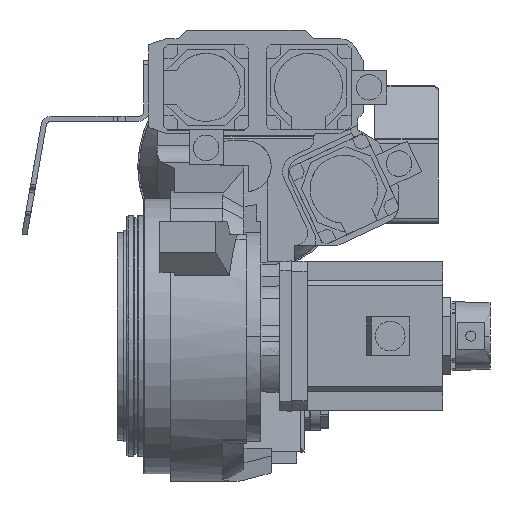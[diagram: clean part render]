
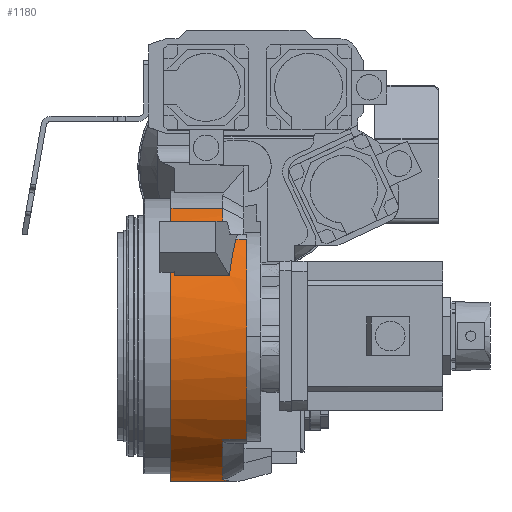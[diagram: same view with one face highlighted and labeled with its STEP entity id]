
A CAD part, front view. The second image highlights one B-rep face of the part: STEP entity #1180.
In plain terms, the highlighted cylindrical face has radius 171.5 mm (diameter 343 mm), a partial arc.
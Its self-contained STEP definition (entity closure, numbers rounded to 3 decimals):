
#975=CARTESIAN_POINT('Control Point',(-88.,222.779,1980.505)) ;
#976=CARTESIAN_POINT('Control Point',(-88.,209.047,1973.004)) ;
#977=CARTESIAN_POINT('Control Point',(-88.,195.993,1963.839)) ;
#978=CARTESIAN_POINT('Control Point',(-88.,183.915,1953.068)) ;
#979=CARTESIAN_POINT('Control Point',(-88.,162.674,1929.02)) ;
#980=CARTESIAN_POINT('Control Point',(-88.,147.318,1900.248)) ;
#981=CARTESIAN_POINT('Control Point',(-88.,141.412,1885.173)) ;
#982=CARTESIAN_POINT('Control Point',(-88.,133.449,1854.621)) ;
#983=CARTESIAN_POINT('Control Point',(-88.,132.611,1822.802)) ;
#984=CARTESIAN_POINT('Control Point',(-88.,133.949,1807.323)) ;
#985=CARTESIAN_POINT('Control Point',(-88.,140.094,1776.933)) ;
#986=CARTESIAN_POINT('Control Point',(-88.,152.864,1748.598)) ;
#987=CARTESIAN_POINT('Control Point',(-88.,160.807,1735.238)) ;
#988=CARTESIAN_POINT('Control Point',(-88.,179.608,1710.473)) ;
#989=CARTESIAN_POINT('Control Point',(-88.,203.358,1690.567)) ;
#990=CARTESIAN_POINT('Control Point',(-88.,216.317,1681.997)) ;
#991=CARTESIAN_POINT('Control Point',(-88.,244.685,1667.525)) ;
#992=CARTESIAN_POINT('Control Point',(-88.,275.314,1659.929)) ;
#993=CARTESIAN_POINT('Control Point',(-88.,291.378,1657.918)) ;
#994=CARTESIAN_POINT('Control Point',(-88.,321.38,1657.683)) ;
#995=CARTESIAN_POINT('Control Point',(-88.,350.216,1663.723)) ;
#996=CARTESIAN_POINT('Control Point',(-88.,363.208,1667.836)) ;
#997=CARTESIAN_POINT('Control Point',(-88.,375.586,1673.138)) ;
#998=CARTESIAN_POINT('Control Point',(-88.,387.221,1679.495)) ;
#999=CARTESIAN_POINT('Vertex',(-88.,387.221,1679.495)) ;
#1001=CARTESIAN_POINT('Vertex',(-88.,222.779,1980.505)) ;
#1039=CARTESIAN_POINT('Axis2P3D Location',(-43.5,305.,1830.)) ;
#1044=CARTESIAN_POINT('Line Origine',(-43.5,387.221,1679.495)) ;
#1048=CARTESIAN_POINT('Vertex',(-47.741,387.221,1679.495)) ;
#1052=CARTESIAN_POINT('Control Point',(-47.741,387.221,1679.495)) ;
#1053=CARTESIAN_POINT('Control Point',(-48.582,377.611,1674.244)) ;
#1054=CARTESIAN_POINT('Control Point',(-49.466,367.5,1669.919)) ;
#1055=CARTESIAN_POINT('Control Point',(-50.379,357.071,1666.596)) ;
#1056=CARTESIAN_POINT('Vertex',(-50.379,357.071,1666.596)) ;
#1060=CARTESIAN_POINT('Control Point',(-50.126,325.901,1659.778)) ;
#1061=CARTESIAN_POINT('Control Point',(-50.418,332.242,1660.557)) ;
#1062=CARTESIAN_POINT('Control Point',(-50.721,338.552,1661.632)) ;
#1063=CARTESIAN_POINT('Control Point',(-50.887,344.793,1662.995)) ;
#1064=CARTESIAN_POINT('Control Point',(-50.907,350.998,1664.661)) ;
#1065=CARTESIAN_POINT('Control Point',(-50.379,357.071,1666.596)) ;
#1066=CARTESIAN_POINT('Vertex',(-50.126,325.901,1659.778)) ;
#1069=CARTESIAN_POINT('Line Origine',(-43.5,325.901,1659.778)) ;
#1073=CARTESIAN_POINT('Vertex',(-3.912,325.901,1659.778)) ;
#1077=CARTESIAN_POINT('Control Point',(-27.,276.387,1660.904)) ;
#1078=CARTESIAN_POINT('Control Point',(-19.369,292.752,1658.135)) ;
#1079=CARTESIAN_POINT('Control Point',(-11.584,309.447,1657.758)) ;
#1080=CARTESIAN_POINT('Control Point',(-3.912,325.901,1659.778)) ;
#1081=CARTESIAN_POINT('Vertex',(-27.,276.387,1660.904)) ;
#1084=CARTESIAN_POINT('Axis2P3D Location',(-27.,305.,1830.)) ;
#1088=CARTESIAN_POINT('Vertex',(-27.,189.621,1703.115)) ;
#1091=CARTESIAN_POINT('Axis2P3D Location',(-27.,305.,1830.)) ;
#1095=CARTESIAN_POINT('Vertex',(-27.,184.006,1708.457)) ;
#1098=CARTESIAN_POINT('Line Origine',(-43.5,184.006,1708.457)) ;
#1102=CARTESIAN_POINT('Vertex',(1.,184.006,1708.457)) ;
#1105=CARTESIAN_POINT('Axis2P3D Location',(1.,305.,1830.)) ;
#1109=CARTESIAN_POINT('Vertex',(1.,177.171,1944.333)) ;
#1112=CARTESIAN_POINT('Line Origine',(-43.5,177.171,1944.333)) ;
#1116=CARTESIAN_POINT('Vertex',(-11.642,177.171,1944.333)) ;
#1120=CARTESIAN_POINT('Control Point',(-19.207,148.942,1901.12)) ;
#1121=CARTESIAN_POINT('Control Point',(-17.761,154.338,1912.961)) ;
#1122=CARTESIAN_POINT('Control Point',(-15.997,160.918,1924.225)) ;
#1123=CARTESIAN_POINT('Control Point',(-13.945,168.579,1934.726)) ;
#1124=CARTESIAN_POINT('Control Point',(-11.642,177.171,1944.333)) ;
#1125=CARTESIAN_POINT('Vertex',(-19.207,148.942,1901.12)) ;
#1128=CARTESIAN_POINT('Line Origine',(-43.5,148.942,1901.12)) ;
#1132=CARTESIAN_POINT('Vertex',(-84.,148.942,1901.12)) ;
#1135=CARTESIAN_POINT('Axis2P3D Location',(-84.,305.,1830.)) ;
#1139=CARTESIAN_POINT('Vertex',(-84.,182.476,1950.)) ;
#1142=CARTESIAN_POINT('Line Origine',(-43.5,182.476,1950.)) ;
#1146=CARTESIAN_POINT('Vertex',(-27.,182.476,1950.)) ;
#1149=CARTESIAN_POINT('Axis2P3D Location',(-27.,305.,1830.)) ;
#1153=CARTESIAN_POINT('Vertex',(-27.,222.779,1980.505)) ;
#1156=CARTESIAN_POINT('Line Origine',(-43.5,222.779,1980.505)) ;
#1040=DIRECTION('Axis2P3D Direction',(1.,0.,-0.)) ;
#1041=DIRECTION('Axis2P3D XDirection',(0.,-0.479,0.878)) ;
#1045=DIRECTION('Vector Direction',(1.,0.,0.)) ;
#1070=DIRECTION('Vector Direction',(1.,0.,0.)) ;
#1085=DIRECTION('Axis2P3D Direction',(1.,0.,-0.)) ;
#1092=DIRECTION('Axis2P3D Direction',(1.,0.,-0.)) ;
#1099=DIRECTION('Vector Direction',(1.,0.,0.)) ;
#1106=DIRECTION('Axis2P3D Direction',(1.,0.,-0.)) ;
#1113=DIRECTION('Vector Direction',(1.,0.,0.)) ;
#1129=DIRECTION('Vector Direction',(1.,0.,0.)) ;
#1136=DIRECTION('Axis2P3D Direction',(1.,0.,-0.)) ;
#1143=DIRECTION('Vector Direction',(1.,0.,0.)) ;
#1150=DIRECTION('Axis2P3D Direction',(1.,0.,-0.)) ;
#1157=DIRECTION('Vector Direction',(1.,0.,0.)) ;
#1042=AXIS2_PLACEMENT_3D('Cylinder Axis2P3D',#1039,#1040,#1041) ;
#1086=AXIS2_PLACEMENT_3D('Circle Axis2P3D',#1084,#1085,$) ;
#1093=AXIS2_PLACEMENT_3D('Circle Axis2P3D',#1091,#1092,$) ;
#1107=AXIS2_PLACEMENT_3D('Circle Axis2P3D',#1105,#1106,$) ;
#1137=AXIS2_PLACEMENT_3D('Circle Axis2P3D',#1135,#1136,$) ;
#1151=AXIS2_PLACEMENT_3D('Circle Axis2P3D',#1149,#1150,$) ;
#1162=ORIENTED_EDGE('',*,*,#1003,.F.) ;
#1163=ORIENTED_EDGE('',*,*,#1050,.T.) ;
#1164=ORIENTED_EDGE('',*,*,#1058,.T.) ;
#1165=ORIENTED_EDGE('',*,*,#1068,.T.) ;
#1166=ORIENTED_EDGE('',*,*,#1075,.F.) ;
#1167=ORIENTED_EDGE('',*,*,#1083,.T.) ;
#1168=ORIENTED_EDGE('',*,*,#1090,.F.) ;
#1169=ORIENTED_EDGE('',*,*,#1097,.F.) ;
#1170=ORIENTED_EDGE('',*,*,#1104,.F.) ;
#1171=ORIENTED_EDGE('',*,*,#1111,.F.) ;
#1172=ORIENTED_EDGE('',*,*,#1118,.T.) ;
#1173=ORIENTED_EDGE('',*,*,#1127,.F.) ;
#1174=ORIENTED_EDGE('',*,*,#1134,.F.) ;
#1175=ORIENTED_EDGE('',*,*,#1141,.F.) ;
#1176=ORIENTED_EDGE('',*,*,#1148,.F.) ;
#1177=ORIENTED_EDGE('',*,*,#1155,.F.) ;
#1178=ORIENTED_EDGE('',*,*,#1160,.F.) ;
#1046=VECTOR('Line Direction',#1045,1.) ;
#1071=VECTOR('Line Direction',#1070,1.) ;
#1100=VECTOR('Line Direction',#1099,1.) ;
#1114=VECTOR('Line Direction',#1113,1.) ;
#1130=VECTOR('Line Direction',#1129,1.) ;
#1144=VECTOR('Line Direction',#1143,1.) ;
#1158=VECTOR('Line Direction',#1157,1.) ;
#1180=ADVANCED_FACE('SRA240L-01_J3.1\\E__A I_____',(#1179),#1043,.T.) ;
#974=B_SPLINE_CURVE_WITH_KNOTS('',5,(#975,#976,#977,#978,#979,#980,#981,#982,#983,#984,#985,#986,#987,#988,#989,#990,#991,#992,#993,#994,#995,#996,#997,#998),.UNSPECIFIED.,.F.,.U.,(6,3,3,3,3,3,3,6),(0.,116.923,229.98,336.61,442.74,549.572,663.095,762.172),.UNSPECIFIED.) ;
#1051=B_SPLINE_CURVE_WITH_KNOTS('',3,(#1052,#1053,#1054,#1055),.UNSPECIFIED.,.F.,.U.,(4,4),(0.,46.616),.UNSPECIFIED.) ;
#1059=B_SPLINE_CURVE_WITH_KNOTS('',5,(#1060,#1061,#1062,#1063,#1064,#1065),.UNSPECIFIED.,.F.,.U.,(6,6),(0.,45.225),.UNSPECIFIED.) ;
#1076=B_SPLINE_CURVE_WITH_KNOTS('',3,(#1077,#1078,#1079,#1080),.UNSPECIFIED.,.F.,.U.,(4,4),(0.,77.612),.UNSPECIFIED.) ;
#1119=B_SPLINE_CURVE_WITH_KNOTS('',4,(#1120,#1121,#1122,#1123,#1124),.UNSPECIFIED.,.F.,.U.,(5,5),(0.,74.164),.UNSPECIFIED.) ;
#1087=CIRCLE('generated circle',#1086,171.5) ;
#1094=CIRCLE('generated circle',#1093,171.5) ;
#1108=CIRCLE('generated circle',#1107,171.5) ;
#1138=CIRCLE('generated circle',#1137,171.5) ;
#1152=CIRCLE('generated circle',#1151,171.5) ;
#1043=CYLINDRICAL_SURFACE('generated cylinder',#1042,171.5) ;
#1003=EDGE_CURVE('',#1000,#1002,#974,.F.) ;
#1050=EDGE_CURVE('',#1000,#1049,#1047,.T.) ;
#1058=EDGE_CURVE('',#1049,#1057,#1051,.T.) ;
#1068=EDGE_CURVE('',#1057,#1067,#1059,.F.) ;
#1075=EDGE_CURVE('',#1074,#1067,#1072,.F.) ;
#1083=EDGE_CURVE('',#1074,#1082,#1076,.F.) ;
#1090=EDGE_CURVE('',#1089,#1082,#1087,.T.) ;
#1097=EDGE_CURVE('',#1096,#1089,#1094,.T.) ;
#1104=EDGE_CURVE('',#1103,#1096,#1101,.F.) ;
#1111=EDGE_CURVE('',#1110,#1103,#1108,.T.) ;
#1118=EDGE_CURVE('',#1110,#1117,#1115,.F.) ;
#1127=EDGE_CURVE('',#1126,#1117,#1119,.T.) ;
#1134=EDGE_CURVE('',#1133,#1126,#1131,.T.) ;
#1141=EDGE_CURVE('',#1140,#1133,#1138,.T.) ;
#1148=EDGE_CURVE('',#1147,#1140,#1145,.F.) ;
#1155=EDGE_CURVE('',#1154,#1147,#1152,.T.) ;
#1160=EDGE_CURVE('',#1002,#1154,#1159,.T.) ;
#1161=EDGE_LOOP('',(#1162,#1163,#1164,#1165,#1166,#1167,#1168,#1169,#1170,#1171,#1172,#1173,#1174,#1175,#1176,#1177,#1178)) ;
#1179=FACE_OUTER_BOUND('',#1161,.T.) ;
#1047=LINE('Line',#1044,#1046) ;
#1072=LINE('Line',#1069,#1071) ;
#1101=LINE('Line',#1098,#1100) ;
#1115=LINE('Line',#1112,#1114) ;
#1131=LINE('Line',#1128,#1130) ;
#1145=LINE('Line',#1142,#1144) ;
#1159=LINE('Line',#1156,#1158) ;
#1000=VERTEX_POINT('',#999) ;
#1002=VERTEX_POINT('',#1001) ;
#1049=VERTEX_POINT('',#1048) ;
#1057=VERTEX_POINT('',#1056) ;
#1067=VERTEX_POINT('',#1066) ;
#1074=VERTEX_POINT('',#1073) ;
#1082=VERTEX_POINT('',#1081) ;
#1089=VERTEX_POINT('',#1088) ;
#1096=VERTEX_POINT('',#1095) ;
#1103=VERTEX_POINT('',#1102) ;
#1110=VERTEX_POINT('',#1109) ;
#1117=VERTEX_POINT('',#1116) ;
#1126=VERTEX_POINT('',#1125) ;
#1133=VERTEX_POINT('',#1132) ;
#1140=VERTEX_POINT('',#1139) ;
#1147=VERTEX_POINT('',#1146) ;
#1154=VERTEX_POINT('',#1153) ;
